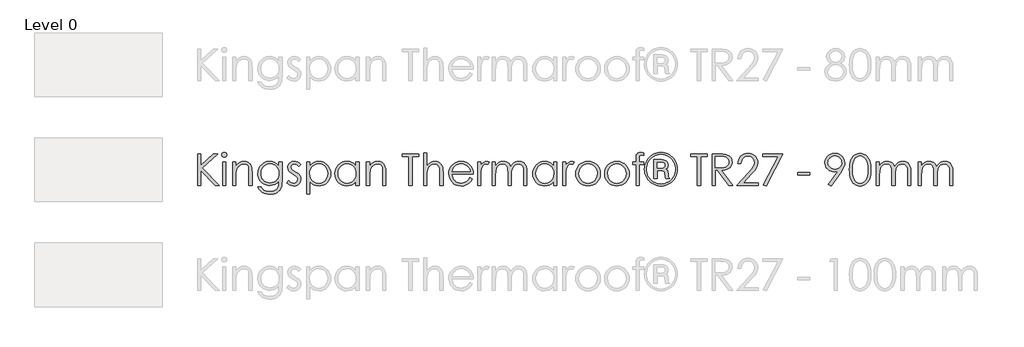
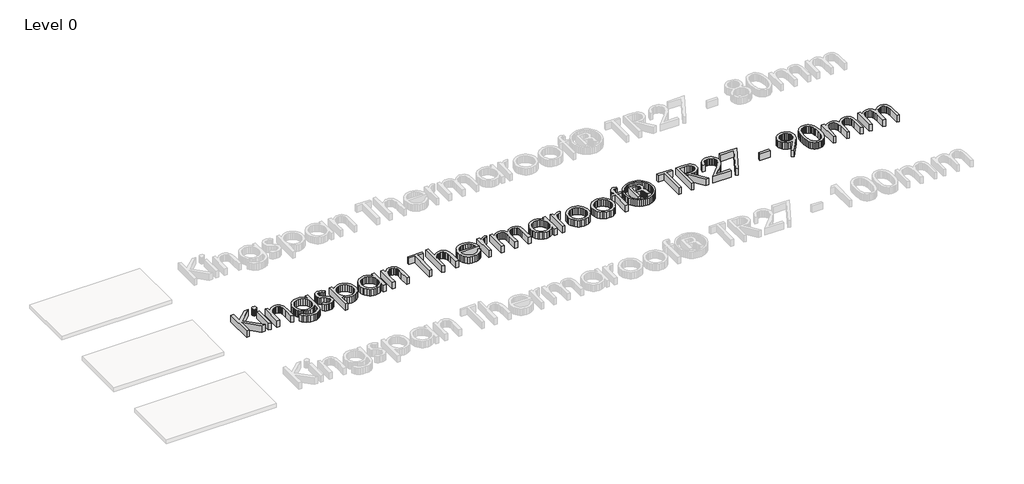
# One storey, part 8 of 12: 1 proxy.
"""IFC4 building model written with IfcOpenShell, lengths in millimetres."""

from ifc_helpers import new_model, si_unit, origin, origin_with_axes, place, context, project, spatial, polyline, outline, extrude, element, save

model = new_model("IFC4")

# Units and contexts
model_context = context("Model", 3, world=origin())
ifc_project = project(units=[si_unit("LENGTHUNIT", "METRE", prefix="MILLI")], contexts=[model_context])

# Site, building, storey
site = spatial("IfcSite", under=ifc_project)
building = spatial("IfcBuilding", under=site)
storey = spatial("IfcBuildingStorey", under=building, Name="Level 0", Elevation=0.0)

# Proxy
placement = place(None, origin())
element("IfcBuildingElementProxy", 1, Name="600mm KI_CenturyGothic", ObjectType="600mm KI_CenturyGothic", at=placement, inside=storey, context=model_context, shape_type="SweptSolid", body=[
    extrude(outline(polyline([(-3852.2663848, -2019.1036551), (-3792.944575, -2019.1036551), (-3792.944575, -2238.3162805), (-3555.1938841, -2019.1036551), (-3471.6181051, -2019.1036551), (-3760.9664119, -2286.0517993), (-3441.9572002, -2612.3217533), (-3520.8984627, -2612.3217533), (-3792.944575, -2334.0962859), (-3792.944575, -2612.3217533), (-3852.2663848, -2612.3217533), (-3852.2663848, -2019.1036551)])), origin_with_axes(), (0.0, 0.0, 1.0), 150.0),
    extrude(outline(polyline([(-3348.1854852, -1989.4427502), (-3329.145347, -1992.7255326), (-3313.1176445, -2002.57388), (-3302.226531, -2017.0181227), (-3298.5961598, -2034.0885914), (-3302.226531, -2050.9273343), (-3313.1176445, -2065.2943351), (-3329.145347, -2075.1426825), (-3348.1854852, -2078.4254649), (-3366.9938975, -2075.1426825), (-3382.9443581, -2065.2943351), (-3393.8354717, -2050.9273343), (-3397.4658428, -2034.0885914), (-3393.8354717, -2017.0181227), (-3382.9443581, -2002.57388), (-3366.9938975, -1992.7255326), (-3348.1854852, -1989.4427502)])), origin_with_axes(), (0.0, 0.0, 1.0), 150.0),
    extrude(outline(polyline([(-3377.6919062, -2167.4081797), (-3318.3700964, -2167.4081797), (-3318.3700964, -2612.3217533), (-3377.6919062, -2612.3217533), (-3377.6919062, -2167.4081797)])), origin_with_axes(), (0.0, 0.0, 1.0), 150.0),
    extrude(outline(polyline([(-3189.8395084, -2167.4081797), (-3130.5176986, -2167.4081797), (-3130.5176986, -2246.5039261), (-3096.9946967, -2206.9946738), (-3060.0730495, -2179.3034384), (-3019.7141359, -2162.9667681), (-2975.879335, -2157.5212114), (-2953.4357238, -2159.0998435), (-2932.2955704, -2163.8357399), (-2912.4588747, -2171.7289007), (-2893.9256368, -2182.7793257), (-2877.212412, -2196.5042529), (-2862.835756, -2212.4209201), (-2841.0921499, -2250.8294747), (-2833.6238199, -2275.208962), (-2828.2892984, -2305.5553891), (-2824.0216812, -2384.1490629), (-2824.0216812, -2612.3217533), (-2883.343491, -2612.3217533), (-2883.343491, -2399.1339993), (-2883.343491, -2296.0932515), (-2884.7290183, -2275.2958592), (-2889.8125035, -2257.2405557), (-2898.2849788, -2241.9273412), (-2910.1464442, -2229.3562154), (-2924.7403432, -2219.5561443), (-2941.4101193, -2212.5560935), (-2980.977303, -2206.9560529), (-3005.3471351, -2209.1139996), (-3028.4038541, -2215.5878397), (-3050.1474602, -2226.3775731), (-3070.5779533, -2241.4832), (-3088.6622225, -2259.7654016), (-3103.3671568, -2280.0848594), (-3114.6927562, -2302.4415734), (-3122.6390208, -2326.8355436), (-3128.5480292, -2373.9145059), (-3130.5176986, -2448.4143569), (-3130.5176986, -2612.3217533), (-3189.8395084, -2612.3217533), (-3189.8395084, -2167.4081797)])), origin_with_axes(), (0.0, 0.0, 1.0), 150.0),
    extrude(outline(polyline([(-2319.7862977, -2167.4081797), (-2260.4644879, -2167.4081797), (-2260.4644879, -2518.3955544), (-2264.5196897, -2598.64993), (-2269.588692, -2629.4501535), (-2276.6852953, -2654.0324009), (-2289.9371156, -2682.645712), (-2307.2924139, -2707.7734805), (-2328.7511904, -2729.4157066), (-2354.3134448, -2747.5723901), (-2383.3226209, -2761.9345632), (-2415.122162, -2772.1932584), (-2449.7120682, -2778.3484755), (-2487.0923395, -2780.4002145), (-2541.0458345, -2776.3836336), (-2589.206184, -2764.333891), (-2630.260275, -2745.5061682), (-2662.8949946, -2721.1556466), (-2690.2000204, -2687.8064391), (-2715.2650299, -2641.9826582), (-2655.94322, -2641.9826582), (-2642.4355358, -2663.1517774), (-2627.0933555, -2681.3953581), (-2609.9166791, -2696.7134003), (-2590.9055067, -2709.105904), (-2569.7894914, -2718.6694217), (-2546.2982864, -2725.5005057), (-2492.1903075, -2730.965373), (-2438.5071593, -2725.6356791), (-2415.083541, -2718.9735618), (-2393.93856, -2709.6465976), (-2359.6624492, -2685.6050438), (-2336.8567664, -2656.1179332), (-2329.3884364, -2637.4784876), (-2324.0539149, -2613.7700397), (-2319.7862977, -2551.146137), (-2319.7862977, -2528.4370066), (-2354.757586, -2564.2193353), (-2396.6420279, -2590.6167682), (-2443.392712, -2606.8955071), (-2492.9627269, -2612.3217533), (-2522.4063889, -2610.4244982), (-2550.9521133, -2604.7327327), (-2578.5999001, -2595.246457), (-2605.3497494, -2581.965671), (-2630.1540674, -2565.4745168), (-2651.9652601, -2546.3571367), (-2670.7833277, -2524.6135306), (-2686.6082702, -2500.2436986), (-2699.1456025, -2473.9283352), (-2708.1008399, -2446.348135), (-2713.4739824, -2417.5030981), (-2715.2650299, -2387.3932244), (-2713.3967404, -2357.1047287), (-2707.7918722, -2327.8783097), (-2698.4504251, -2299.7139674), (-2685.3723991, -2272.6117018), (-2668.9971079, -2247.4260017), (-2649.7638648, -2225.0113563), (-2627.67267, -2205.3677655), (-2602.7235235, -2188.4952292), (-2575.9833294, -2174.9440964), (-2548.5189922, -2165.2647158), (-2520.3305117, -2159.4570875), (-2491.4178881, -2157.5212114), (-2444.5320306, -2162.4646955), (-2400.8903346, -2177.295148), (-2359.6045177, -2203.8663753), (-2319.7862977, -2244.032184), (-2319.7862977, -2167.4081797)]), holes=[polyline([(-2484.1571458, -2206.9560529), (-2529.0154023, -2212.9809242), (-2570.5908765, -2231.0555381), (-2606.2187212, -2259.7702293), (-2633.2340897, -2297.7153322), (-2650.2659375, -2341.9942743), (-2655.94322, -2389.7104826), (-2653.0080263, -2425.623157), (-2644.2024452, -2458.2820147), (-2629.5264766, -2487.6870557), (-2608.9801206, -2513.83828), (-2583.7606272, -2535.2970564), (-2555.0652466, -2550.6247539), (-2522.8939786, -2559.8213723), (-2487.2468234, -2562.8869118), (-2451.3244937, -2559.8455104), (-2419.1001219, -2550.7213063), (-2390.573708, -2535.5142994), (-2365.7452519, -2514.2244897), (-2345.6382095, -2487.9815406), (-2331.2760363, -2457.9151155), (-2322.6587323, -2424.0252144), (-2319.7862977, -2386.3118373), (-2325.0773706, -2337.6107942), (-2340.9505892, -2294.3939288), (-2366.4983608, -2258.167459), (-2400.8130926, -2230.4376026), (-2440.9982119, -2212.8264403), (-2484.1571458, -2206.9560529)])]), origin_with_axes(), (0.0, 0.0, 1.0), 150.0),
    extrude(outline(polyline([(-1904.5336289, -2218.6968277), (-1940.9918246, -2256.3908944), (-1962.9575012, -2234.7631512), (-1984.6721416, -2219.3147633), (-2006.1357456, -2210.0457305), (-2027.3483133, -2206.9560529), (-2052.181597, -2211.6291902), (-2073.2300256, -2225.6486023), (-2087.5970264, -2245.8859906), (-2092.3860267, -2269.2130564), (-2088.4466878, -2290.7635576), (-2076.628671, -2311.2326717), (-2052.0657341, -2333.4011084), (-2010.2006027, -2359.1226744), (-1958.3326401, -2391.9891198), (-1939.8428507, -2407.8140623), (-1926.315856, -2423.2334845), (-1909.9791857, -2455.9068251), (-1904.5336289, -2492.4422626), (-1906.9474396, -2518.5886593), (-1914.1888714, -2542.6495236), (-1926.2579245, -2564.6248555), (-1943.1545989, -2584.514655), (-1963.6719892, -2601.0058091), (-1986.6031901, -2612.785205), (-2011.9482016, -2619.8528425), (-2039.7070237, -2622.2087216), (-2077.4397114, -2618.3273142), (-2113.3958344, -2606.6830917), (-2145.4512394, -2588.2029576), (-2171.4817731, -2563.8138151), (-2135.7959969, -2523.3390386), (-2114.0041146, -2544.9667818), (-2091.5749863, -2560.4151697), (-2068.5086121, -2569.6842025), (-2044.8049918, -2572.7738801), (-2013.637869, -2567.1352185), (-1987.4914724, -2550.2192337), (-1969.7644472, -2525.6562968), (-1963.8554388, -2497.076779), (-1967.7561567, -2473.2862616), (-1979.4583106, -2452.2764539), (-2005.0253927, -2430.5714688), (-2050.2119275, -2403.7685157), (-2099.762632, -2373.1034655), (-2117.441381, -2357.9447348), (-2130.3890611, -2342.9018671), (-2146.3781427, -2310.7692201), (-2151.7078365, -2274.3110244), (-2149.5305794, -2250.264643), (-2142.9988078, -2228.3327597), (-2132.1125219, -2208.5153745), (-2116.8717217, -2190.8124874), (-2098.309518, -2176.2475542), (-2077.4590218, -2165.8440304), (-2054.3202332, -2159.6019161), (-2028.8931521, -2157.5212114), (-1997.9481, -2161.3446874), (-1966.9064954, -2172.8151154), (-1935.7683384, -2191.9324956), (-1904.5336289, -2218.6968277)])), origin_with_axes(), (0.0, 0.0, 1.0), 150.0),
    extrude(outline(polyline([(-1795.7769776, -2167.4081797), (-1736.4551678, -2167.4081797), (-1736.4551678, -2248.5122165), (-1700.9238754, -2208.2691659), (-1660.4490989, -2179.9213739), (-1614.9922173, -2163.121252), (-1564.5146096, -2157.5212114), (-1520.0618732, -2161.7598628), (-1478.9305402, -2174.4758172), (-1441.1206107, -2195.6690744), (-1406.6320845, -2225.3396346), (-1377.9077381, -2260.9771346), (-1357.3903478, -2300.0712114), (-1345.0799137, -2342.621865), (-1340.9764356, -2388.6290955), (-1345.0412927, -2435.5294358), (-1357.235864, -2478.7511288), (-1377.5601494, -2518.2941744), (-1406.014149, -2554.1585726), (-1440.2130179, -2583.9305128), (-1477.7719111, -2605.1961844), (-1518.6908288, -2617.9555873), (-1562.9697708, -2622.2087216), (-1612.6170277, -2616.7438544), (-1658.0545988, -2600.3492527), (-1699.3211052, -2573.1021584), (-1736.4551678, -2535.0798135), (-1736.4551678, -2770.5132462), (-1795.7769776, -2770.5132462), (-1795.7769776, -2167.4081797)]), holes=[polyline([(-1568.5311905, -2206.9560529), (-1602.5852307, -2210.2533182), (-1633.8392507, -2220.1451141), (-1662.2932503, -2236.6314406), (-1687.9472295, -2259.7122978), (-1709.1694525, -2287.6980181), (-1724.3281832, -2318.8989342), (-1733.4234216, -2353.3150461), (-1736.4551678, -2390.9463537), (-1731.048232, -2439.8018806), (-1714.8274246, -2483.4821976), (-1688.5265441, -2520.3266029), (-1652.8793888, -2548.6743949), (-1611.4390881, -2566.7490088), (-1567.7587711, -2572.7738801), (-1525.0632888, -2566.7103878), (-1485.0326535, -2548.519911), (-1450.2544701, -2519.4190101), (-1423.3163435, -2480.6242458), (-1406.05277, -2435.9590941), (-1400.2982454, -2389.247031), (-1405.9948385, -2342.303242), (-1423.0846177, -2297.8698161), (-1449.8103289, -2259.519193), (-1484.414718, -2230.8238123), (-1524.7157001, -2212.9229927), (-1568.5311905, -2206.9560529)])]), origin_with_axes(), (0.0, 0.0, 1.0), 150.0),
    extrude(outline(polyline([(-807.0801472, -2167.4081797), (-807.0801472, -2612.3217533), (-866.401957, -2612.3217533), (-866.401957, -2536.4701684), (-903.4780882, -2574.3187189), (-944.8797679, -2601.0444301), (-990.4525125, -2616.9176488), (-1040.0418379, -2622.2087216), (-1084.3159523, -2617.9555873), (-1125.2203871, -2605.1961844), (-1162.7551422, -2583.9305128), (-1196.9202178, -2554.1585726), (-1225.340424, -2518.2941744), (-1245.6405713, -2478.7511288), (-1257.8206597, -2435.5294358), (-1261.8806892, -2388.6290955), (-1257.7820388, -2342.621865), (-1245.4860875, -2300.0712114), (-1224.9928353, -2260.9771346), (-1196.3022822, -2225.3396346), (-1161.8475494, -2195.6690744), (-1124.061758, -2174.4758172), (-1082.9449079, -2161.7598628), (-1038.4969991, -2157.5212114), (-987.7490446, -2163.121252), (-942.0990581, -2179.9213739), (-921.2051134, -2192.6083625), (-901.6242816, -2208.2691659), (-866.401957, -2248.5122165), (-866.401957, -2167.4081797), (-807.0801472, -2167.4081797)]), holes=[polyline([(-1034.3259343, -2206.9560529), (-1078.1414247, -2212.9229927), (-1118.4424068, -2230.8238123), (-1153.0467959, -2259.519193), (-1179.7725071, -2297.8698161), (-1196.8622863, -2342.303242), (-1202.5588794, -2389.247031), (-1196.8043548, -2435.9590941), (-1179.5407813, -2480.6242458), (-1152.6026548, -2519.4190101), (-1117.8244713, -2548.519911), (-1077.6779731, -2566.7103878), (-1034.6349021, -2572.7738801), (-991.0125165, -2566.7490088), (-949.7460102, -2548.6743949), (-914.2726493, -2520.3266029), (-888.0297002, -2483.4821976), (-871.8088928, -2439.8018806), (-866.401957, -2390.9463537), (-869.4337032, -2353.3150461), (-878.5289416, -2318.8989342), (-893.6876723, -2287.6980181), (-914.9098953, -2259.7122978), (-940.5638746, -2236.6314406), (-969.0178742, -2220.1451141), (-1000.2718941, -2210.2533182), (-1034.3259343, -2206.9560529)])]), origin_with_axes(), (0.0, 0.0, 1.0), 150.0),
    extrude(outline(polyline([(-668.662591, -2167.4081797), (-609.3407811, -2167.4081797), (-609.3407811, -2246.5039261), (-575.8177792, -2206.9946738), (-538.896132, -2179.3034384), (-498.5372184, -2162.9667681), (-454.7024175, -2157.5212114), (-432.2588064, -2159.0998435), (-411.1186529, -2163.8357399), (-391.2819572, -2171.7289007), (-372.7487193, -2182.7793257), (-356.0354946, -2196.5042529), (-341.6588385, -2212.4209201), (-319.9152324, -2250.8294747), (-312.4469024, -2275.208962), (-307.1123809, -2305.5553891), (-302.8447637, -2384.1490629), (-302.8447637, -2612.3217533), (-362.1665735, -2612.3217533), (-362.1665735, -2399.1339993), (-362.1665735, -2296.0932515), (-363.5521008, -2275.2958592), (-368.635586, -2257.2405557), (-377.1080613, -2241.9273412), (-388.9695267, -2229.3562154), (-403.5634257, -2219.5561443), (-420.2332018, -2212.5560935), (-459.8003855, -2206.9560529), (-484.1702176, -2209.1139996), (-507.2269366, -2215.5878397), (-528.9705427, -2226.3775731), (-549.4010358, -2241.4832), (-567.485305, -2259.7654016), (-582.1902393, -2280.0848594), (-593.5158387, -2302.4415734), (-601.4621033, -2326.8355436), (-607.3711117, -2373.9145059), (-609.3407811, -2448.4143569), (-609.3407811, -2612.3217533), (-668.662591, -2612.3217533), (-668.662591, -2167.4081797)])), origin_with_axes(), (0.0, 0.0, 1.0), 150.0),
    extrude(outline(polyline([(3.6512537, -2068.5384966), (3.6512537, -2019.1036551), (320.0342394, -2019.1036551), (320.0342394, -2068.5384966), (191.5036515, -2068.5384966), (191.5036515, -2612.3217533), (132.1818417, -2612.3217533), (132.1818417, -2068.5384966), (3.6512537, -2068.5384966)])), origin_with_axes(), (0.0, 0.0, 1.0), 150.0),
    extrude(outline(polyline([(409.0169542, -1999.3297185), (468.338764, -1999.3297185), (468.338764, -2248.0487649), (502.1128022, -2208.3464078), (539.1696229, -2180.0758578), (579.470605, -2163.159873), (622.9771276, -2157.5212114), (645.4207388, -2159.0998435), (666.5608922, -2163.8357399), (686.3975879, -2171.7289007), (704.9308258, -2182.7793257), (721.6440506, -2196.48977), (736.0207066, -2212.3629887), (757.7643127, -2250.5977489), (765.2326428, -2274.9048219), (770.5671642, -2305.2657318), (774.8347814, -2384.1490629), (774.8347814, -2612.3217533), (715.5129716, -2612.3217533), (715.5129716, -2399.1339993), (714.1226167, -2334.7528424), (709.9515519, -2296.0932515), (696.4342124, -2257.2405557), (686.7210385, -2241.9273412), (675.0381951, -2229.3562154), (661.3953375, -2219.5561443), (645.8021209, -2212.5560935), (608.7646107, -2206.9560529), (585.8961689, -2209.1139996), (564.2539428, -2215.5878397), (543.8379326, -2226.3775731), (524.6481382, -2241.4832), (507.659739, -2259.7654016), (493.8479146, -2280.0848594), (483.212665, -2302.4415734), (475.7539902, -2326.8355436), (470.1925705, -2373.6827801), (468.338764, -2448.4143569), (468.338764, -2612.3217533), (409.0169542, -2612.3217533), (409.0169542, -1999.3297185)])), origin_with_axes(), (0.0, 0.0, 1.0), 150.0),
    extrude(outline(polyline([(1280.6150037, -2464.0172288), (1328.5050064, -2489.1981012), (1302.8799929, -2531.0825431), (1273.5859872, -2564.0455409), (1240.5071264, -2589.1298609), (1203.5275477, -2607.3782692), (1162.048626, -2618.5011085), (1115.4717363, -2622.2087216), (1063.9803281, -2617.7769653), (1018.4172388, -2604.4816964), (978.7824684, -2582.3229149), (945.0760169, -2551.3006208), (918.1765113, -2514.6975966), (898.9625788, -2475.7966246), (887.4342193, -2434.5977049), (883.5914328, -2391.1008375), (886.8742152, -2350.2205409), (896.7225625, -2311.6188814), (913.1364748, -2275.2958592), (936.1159519, -2241.2514742), (972.3038007, -2204.6194842), (1014.1303111, -2178.4537771), (1061.5954832, -2162.7543528), (1114.6993169, -2157.5212114), (1169.3479893, -2162.8895262), (1218.2035163, -2178.9944706), (1261.2658978, -2205.8360447), (1298.5351338, -2243.4142485), (1320.008393, -2275.5855165), (1335.456781, -2311.5416395), (1344.8802977, -2351.2826175), (1348.278943, -2394.8084506), (942.9132426, -2394.8084506), (946.6498214, -2432.0632038), (956.1602353, -2465.8131039), (971.4444841, -2496.058151), (992.502568, -2522.798345), (1017.86689, -2544.6626416), (1046.0698533, -2560.2799963), (1077.1114579, -2569.6504092), (1110.9917037, -2572.7738801), (1144.5147056, -2569.7614445), (1177.1108043, -2560.7241375), (1206.8489511, -2546.6854149), (1231.7980977, -2528.6687324), (1255.2796474, -2502.5030253), (1280.6150037, -2464.0172288)]), holes=[polyline([(1288.9571332, -2345.3736091), (1274.5322009, -2302.8519212), (1254.7389538, -2269.8309919), (1228.6311782, -2244.3025308), (1195.2626601, -2224.2582474), (1157.3175572, -2211.2816015), (1117.4800267, -2206.9560529), (1085.0577224, -2209.669176), (1054.9912973, -2217.8085454), (1027.2807514, -2231.3741611), (1001.9260846, -2250.3660231), (985.3866543, -2268.1799455), (970.9906877, -2289.9525173), (958.738185, -2315.6837385), (948.6291461, -2345.3736091), (1288.9571332, -2345.3736091)])]), origin_with_axes(), (0.0, 0.0, 1.0), 150.0),
    extrude(outline(polyline([(1427.3746895, -2167.4081797), (1486.6964993, -2167.4081797), (1486.6964993, -2231.8279575), (1512.2442709, -2198.7877177), (1539.1437765, -2175.6730672), (1567.317774, -2162.0591753), (1596.6890217, -2157.5212114), (1620.0160875, -2161.3060664), (1644.8879922, -2172.6606316), (1615.3815711, -2214.6802469), (1586.8020534, -2206.9560529), (1560.3853099, -2212.9036822), (1534.8954698, -2230.7465704), (1512.8428959, -2261.1026527), (1496.7379515, -2304.5898649), (1489.2068623, -2362.7144246), (1486.6964993, -2460.1551318), (1486.6964993, -2612.3217533), (1427.3746895, -2612.3217533), (1427.3746895, -2167.4081797)])), origin_with_axes(), (0.0, 0.0, 1.0), 150.0),
    extrude(outline(polyline([(1704.209802, -2167.4081797), (1763.5316118, -2167.4081797), (1763.5316118, -2243.5687324), (1793.1152748, -2207.0719158), (1823.4713571, -2181.9296644), (1866.8813274, -2163.6233246), (1912.4540719, -2157.5212114), (1943.2929164, -2160.6688204), (1972.4710592, -2170.1116476), (1998.2312461, -2184.7876161), (2018.8162231, -2203.6346495), (2035.5970345, -2229.0665582), (2049.9447249, -2263.4971529), (2064.7220735, -2239.0983551), (2081.247021, -2217.8085454), (2099.5195674, -2199.6277238), (2119.5397127, -2184.5558903), (2140.83435, -2172.7282183), (2162.9303724, -2164.2798811), (2185.82778, -2159.2108788), (2209.5265726, -2157.5212114), (2251.8551557, -2163.3336673), (2271.0497777, -2170.5992373), (2288.9312868, -2180.7710353), (2305.0458865, -2193.5400934), (2318.9397805, -2208.5974441), (2340.065451, -2245.5770228), (2347.3648143, -2268.9523649), (2352.5786453, -2297.5222274), (2356.74971, -2370.2455138), (2356.74971, -2612.3217533), (2297.4279002, -2612.3217533), (2297.4279002, -2366.6923845), (2294.9754686, -2305.5746996), (2287.6181738, -2267.127524), (2274.3132497, -2242.6611396), (2254.01793, -2223.485828), (2227.9487753, -2211.0884967), (2197.3223461, -2206.9560529), (2177.6739277, -2208.5057193), (2158.894481, -2213.1547185), (2123.9425033, -2231.7507156), (2095.2085016, -2260.6971325), (2075.434565, -2297.947058), (2068.743482, -2322.1044747), (2063.9641369, -2353.1750451), (2060.1406609, -2436.0556465), (2060.1406609, -2612.3217533), (2000.8188511, -2612.3217533), (2000.8188511, -2381.9862886), (1998.4050405, -2313.5306194), (1991.1636086, -2271.2985888), (1977.9166159, -2245.0556397), (1957.4861228, -2224.5672152), (1931.1659318, -2211.3588434), (1900.2498454, -2206.9560529), (1863.3088876, -2213.0002347), (1828.801051, -2231.1327801), (1799.8353235, -2259.4998825), (1779.5206934, -2296.2477354), (1767.5288822, -2348.077077), (1763.5316118, -2421.6886457), (1763.5316118, -2612.3217533), (1704.209802, -2612.3217533), (1704.209802, -2167.4081797)])), origin_with_axes(), (0.0, 0.0, 1.0), 150.0),
    extrude(outline(polyline([(2920.3069034, -2167.4081797), (2920.3069034, -2612.3217533), (2860.9850935, -2612.3217533), (2860.9850935, -2536.4701684), (2823.9089624, -2574.3187189), (2782.5072826, -2601.0444301), (2736.9345381, -2616.9176488), (2687.3452127, -2622.2087216), (2643.0710983, -2617.9555873), (2602.1666635, -2605.1961844), (2564.6319083, -2583.9305128), (2530.4668328, -2554.1585726), (2502.0466266, -2518.2941744), (2481.7464792, -2478.7511288), (2469.5663908, -2435.5294358), (2465.5063614, -2388.6290955), (2469.6050118, -2342.621865), (2481.9009631, -2300.0712114), (2502.3942153, -2260.9771346), (2531.0847683, -2225.3396346), (2565.5395011, -2195.6690744), (2603.3252926, -2174.4758172), (2644.4421427, -2161.7598628), (2688.8900515, -2157.5212114), (2739.638006, -2163.121252), (2785.2879925, -2179.9213739), (2806.1819372, -2192.6083625), (2825.7627689, -2208.2691659), (2860.9850935, -2248.5122165), (2860.9850935, -2167.4081797), (2920.3069034, -2167.4081797)]), holes=[polyline([(2693.0611162, -2206.9560529), (2649.2456259, -2212.9229927), (2608.9446437, -2230.8238123), (2574.3402547, -2259.519193), (2547.6145435, -2297.8698161), (2530.5247643, -2342.303242), (2524.8281712, -2389.247031), (2530.5826957, -2435.9590941), (2547.8462693, -2480.6242458), (2574.7843958, -2519.4190101), (2609.5625792, -2548.519911), (2649.7090775, -2566.7103878), (2692.7521485, -2572.7738801), (2736.374534, -2566.7490088), (2777.6410404, -2548.6743949), (2813.1144013, -2520.3266029), (2839.3573504, -2483.4821976), (2855.5781577, -2439.8018806), (2860.9850935, -2390.9463537), (2857.9533474, -2353.3150461), (2848.858109, -2318.8989342), (2833.6993783, -2287.6980181), (2812.4771553, -2259.7122978), (2786.823176, -2236.6314406), (2758.3691764, -2220.1451141), (2727.1151565, -2210.2533182), (2693.0611162, -2206.9560529)])]), origin_with_axes(), (0.0, 0.0, 1.0), 150.0),
    extrude(outline(polyline([(3029.0635547, -2167.4081797), (3088.3853645, -2167.4081797), (3088.3853645, -2231.8279575), (3113.9331361, -2198.7877177), (3140.8326417, -2175.6730672), (3169.0066393, -2162.0591753), (3198.3778869, -2157.5212114), (3221.7049527, -2161.3060664), (3246.5768574, -2172.6606316), (3217.0704364, -2214.6802469), (3188.4909186, -2206.9560529), (3162.0741752, -2212.9036822), (3136.584335, -2230.7465704), (3114.5317612, -2261.1026527), (3098.4268167, -2304.5898649), (3090.8957276, -2362.7144246), (3088.3853645, -2460.1551318), (3088.3853645, -2612.3217533), (3029.0635547, -2612.3217533), (3029.0635547, -2167.4081797)])), origin_with_axes(), (0.0, 0.0, 1.0), 150.0),
    extrude(outline(polyline([(3508.7360013, -2157.5212114), (3558.0453247, -2162.1460725), (3602.932547, -2176.020656), (3643.3976682, -2199.1449617), (3679.4406884, -2231.5189898), (3706.340194, -2266.7509696), (3725.5541265, -2305.0919375), (3737.0824861, -2346.5418935), (3740.9252726, -2391.1008375), (3736.8604155, -2435.9156455), (3724.6658442, -2477.8242255), (3704.3415588, -2516.8265775), (3675.8875592, -2552.9227016), (3641.0514443, -2583.2353353), (3601.580813, -2604.8872166), (3557.4756654, -2617.8783454), (3508.7360013, -2622.2087216), (3459.8611639, -2617.8783454), (3415.6594638, -2604.8872166), (3376.130901, -2583.2353353), (3341.2754757, -2552.9227016), (3312.8214761, -2516.8265775), (3292.4971906, -2477.8242255), (3280.3026194, -2435.9156455), (3276.2377623, -2391.1008375), (3280.0805488, -2346.7349983), (3291.6089083, -2305.4009052), (3310.8228409, -2267.0985583), (3337.7223464, -2231.8279575), (3373.7846771, -2199.3187561), (3414.3077298, -2176.0978979), (3459.2915046, -2162.165383), (3508.7360013, -2157.5212114)]), holes=[polyline([(3508.5815174, -2206.9560529), (3474.3054066, -2210.3305601), (3442.5396588, -2220.4540819), (3413.2842741, -2237.3266181), (3386.5392524, -2260.9481688), (3364.2356423, -2289.3587199), (3348.3044922, -2320.5982569), (3338.7458021, -2354.66678), (3335.5595721, -2391.5642892), (3341.3720281, -2439.299808), (3358.809396, -2483.6366815), (3386.1530427, -2521.4273006), (3421.6843351, -2549.5240562), (3463.2211882, -2566.9614241), (3508.5815174, -2572.7738801), (3553.9418466, -2566.9614241), (3595.4786998, -2549.5240562), (3631.0099921, -2521.4273006), (3658.3536389, -2483.6366815), (3675.7910068, -2439.299808), (3681.6034628, -2391.5642892), (3678.4027499, -2354.66678), (3668.8006112, -2320.5982569), (3652.7970468, -2289.3587199), (3630.3920566, -2260.9481688), (3603.5746206, -2237.3266181), (3574.3337188, -2220.4540819), (3542.669351, -2210.3305601), (3508.5815174, -2206.9560529)])]), origin_with_axes(), (0.0, 0.0, 1.0), 150.0),
    extrude(outline(polyline([(4052.519258, -2157.5212114), (4101.8285814, -2162.1460725), (4146.7158037, -2176.020656), (4187.180925, -2199.1449617), (4223.2239452, -2231.5189898), (4250.1234507, -2266.7509696), (4269.3373833, -2305.0919375), (4280.8657428, -2346.5418935), (4284.7085293, -2391.1008375), (4280.6436722, -2435.9156455), (4268.4491009, -2477.8242255), (4248.1248155, -2516.8265775), (4219.6708159, -2552.9227016), (4184.834701, -2583.2353353), (4145.3640698, -2604.8872166), (4101.2589221, -2617.8783454), (4052.519258, -2622.2087216), (4003.6444206, -2617.8783454), (3959.4427205, -2604.8872166), (3919.9141578, -2583.2353353), (3885.0587324, -2552.9227016), (3856.6047328, -2516.8265775), (3836.2804474, -2477.8242255), (3824.0858761, -2435.9156455), (3820.021019, -2391.1008375), (3823.8638055, -2346.7349983), (3835.392165, -2305.4009052), (3854.6060976, -2267.0985583), (3881.5056031, -2231.8279575), (3917.5679338, -2199.3187561), (3958.0909865, -2176.0978979), (4003.0747613, -2162.165383), (4052.519258, -2157.5212114)]), holes=[polyline([(4052.3647741, -2206.9560529), (4018.0886633, -2210.3305601), (3986.3229156, -2220.4540819), (3957.0675308, -2237.3266181), (3930.3225091, -2260.9481688), (3908.018899, -2289.3587199), (3892.0877489, -2320.5982569), (3882.5290589, -2354.66678), (3879.3428288, -2391.5642892), (3885.1552848, -2439.299808), (3902.5926527, -2483.6366815), (3929.9362994, -2521.4273006), (3965.4675918, -2549.5240562), (4007.004445, -2566.9614241), (4052.3647741, -2572.7738801), (4097.7251033, -2566.9614241), (4139.2619565, -2549.5240562), (4174.7932489, -2521.4273006), (4202.1368956, -2483.6366815), (4219.5742635, -2439.299808), (4225.3867195, -2391.5642892), (4222.1860066, -2354.66678), (4212.5838679, -2320.5982569), (4196.5803035, -2289.3587199), (4174.1753133, -2260.9481688), (4147.3578773, -2237.3266181), (4118.1169755, -2220.4540819), (4086.4526077, -2210.3305601), (4052.3647741, -2206.9560529)])]), origin_with_axes(), (0.0, 0.0, 1.0), 150.0),
    extrude(outline(polyline([(4561.5436418, -2000.7200734), (4561.5436418, -2052.3176892), (4535.2813822, -2042.2376161), (4513.0357036, -2038.8775917), (4499.3059487, -2040.5576039), (4488.086557, -2045.5976405), (4479.9761533, -2052.8197619), (4475.5733627, -2061.0460285), (4473.0243787, -2107.6229182), (4473.0243787, -2167.4081797), (4561.5436418, -2167.4081797), (4561.5436418, -2216.8430212), (4472.8698948, -2216.8430212), (4472.8698948, -2612.3217533), (4413.2391172, -2612.3217533), (4413.2391172, -2216.8430212), (4353.9173074, -2216.8430212), (4353.9173074, -2167.4081797), (4413.2391172, -2167.4081797), (4413.2391172, -2099.8987242), (4415.3246496, -2060.0611937), (4421.5812467, -2033.5478979), (4432.8392595, -2015.6277678), (4449.9290387, -2001.5697347), (4472.000923, -1992.4744963), (4498.2052511, -1989.4427502), (4527.2482205, -1992.262081), (4561.5436418, -2000.7200734)])), origin_with_axes(), (0.0, 0.0, 1.0), 150.0),
    extrude(outline(polyline([(5194.3096132, -2305.2078004), (5191.7075254, -2347.1501737), (5183.9012619, -2387.5477083), (5170.8908226, -2426.4004041), (5152.6762077, -2463.708261), (5129.9284564, -2498.3464434), (5103.3186081, -2529.1901155), (5072.8466628, -2556.2392774), (5038.5126205, -2579.4939289), (5001.5958009, -2598.1816507), (4963.3755235, -2611.5300234), (4923.8517884, -2619.5390471), (4883.0245956, -2622.2087216), (4842.2649894, -2619.55353), (4802.7895305, -2611.5879549), (4764.5982189, -2598.3119965), (4727.6910545, -2579.7256547), (4693.3425293, -2556.5579004), (4662.8271355, -2529.5377043), (4636.1448729, -2498.6650664), (4613.2957415, -2463.9399868), (4594.9797465, -2426.6369575), (4581.896893, -2388.0304704), (4574.0471808, -2348.1205256), (4571.4306101, -2306.9071231), (4574.0471808, -2265.2399241), (4581.896893, -2224.8954934), (4594.9797465, -2185.8738309), (4613.2957415, -2148.1749366), (4636.13039, -2113.1215788), (4662.769204, -2082.0365256), (4693.2121836, -2054.9197771), (4727.4593286, -2031.7713332), (4764.2940787, -2013.2525782), (4802.4998732, -2000.024896), (4842.0767122, -1992.0882866), (4883.0245956, -1989.4427502), (4923.9531684, -1992.0738038), (4963.4720759, -1999.9669645), (5001.581318, -2013.1222324), (5038.2808947, -2031.5396074), (5072.4025216, -2054.5866712), (5102.7779145, -2081.6310054), (5129.4070733, -2112.67261), (5152.289998, -2147.711485), (5170.6735796, -2185.3331373), (5183.8047094, -2224.123074), (5191.6833873, -2264.081295), (5194.3096132, -2305.2078004)]), holes=[polyline([(5154.76174, -2305.8257359), (5152.4782752, -2269.6813357), (5145.6278806, -2234.6279778), (5134.2105564, -2200.6656624), (5118.2263025, -2167.7943894), (5098.3220201, -2137.1920983), (5075.1446105, -2110.0367288), (5048.6940737, -2086.3282809), (5018.9704097, -2066.0667545), (4987.0115571, -2049.8459472), (4953.8554544, -2038.2596562), (4919.5021017, -2031.3078816), (4883.9514988, -2028.9906234), (4848.1353768, -2031.3078816), (4813.4489182, -2038.2596562), (4779.892123, -2049.8459472), (4747.4649911, -2066.0667545), (4717.3116688, -2086.3282809), (4690.5763024, -2110.0367288), (4667.2588918, -2137.1920983), (4647.359437, -2167.7943894), (4631.4427698, -2200.7139386), (4620.0737217, -2234.8210827), (4613.2522929, -2270.1158216), (4610.9784833, -2306.5981553), (4613.2522929, -2342.9066947), (4620.0737217, -2377.9890182), (4631.4427698, -2411.845126), (4647.359437, -2444.475018), (4667.268547, -2474.8069623), (4690.6149233, -2501.7692269), (4717.398566, -2525.3618119), (4747.619475, -2545.5847173), (4780.0948831, -2561.8055247), (4813.6420231, -2573.3918156), (4848.260895, -2580.3435902), (4883.9514988, -2582.6608484), (4919.3234797, -2580.3291074), (4953.6044181, -2573.3338842), (4986.7943142, -2561.6751789), (5018.8931678, -2545.3529915), (5048.7761433, -2525.0431889), (5075.3184049, -2501.4216382), (5098.5199526, -2474.4883392), (5118.3807864, -2444.2432922), (5134.2974536, -2411.666504), (5145.6665016, -2377.7379819), (5152.4879304, -2342.4577259), (5154.76174, -2305.8257359)])]), origin_with_axes(), (0.0, 0.0, 1.0), 150.0),
    extrude(outline(polyline([(4749.3960396, -2127.8603064), (4893.5294994, -2127.8603064), (4936.9587801, -2130.4672219), (4966.2141648, -2138.2879683), (4986.3356901, -2152.0177231), (5002.3633927, -2172.3516638), (5012.848986, -2197.9573669), (5016.3441838, -2227.5024089), (5014.722103, -2252.7991442), (5009.8558608, -2274.3110244), (4997.0336988, -2289.5663076), (4974.6335362, -2306.2891876), (4995.2957552, -2318.9761762), (5007.8475704, -2333.5555923), (5014.2200304, -2354.6619524), (5016.3441838, -2386.9297728), (5016.3441838, -2427.0955815), (5021.4035308, -2453.0488733), (5036.581572, -2474.3676487), (5046.0050887, -2483.7911654), (4976.7963106, -2483.7911654), (4967.7590036, -2459.6530592), (4961.9658581, -2431.4211301), (4957.022374, -2387.8566761), (4954.4540795, -2367.3296305), (4949.8388735, -2353.9474645), (4942.9836514, -2345.5087825), (4933.6953081, -2339.8121895), (4918.0151943, -2336.568028), (4891.9846606, -2335.4866408), (4808.7178494, -2335.4866408), (4808.7178494, -2483.7911654), (4749.3960396, -2483.7911654), (4749.3960396, -2127.8603064)]), holes=[polyline([(4808.7178494, -2177.295148), (4808.7178494, -2286.0517993), (4888.5860152, -2286.0517993), (4919.1738234, -2283.7345411), (4938.0208567, -2276.7827665), (4946.3340205, -2268.8944334), (4952.2719947, -2258.6695316), (4957.022374, -2231.210022), (4953.6044181, -2206.9946738), (4943.3505506, -2190.2717939), (4923.6345454, -2180.5393094), (4891.8301767, -2177.295148), (4808.7178494, -2177.295148)])]), origin_with_axes(), (0.0, 0.0, 1.0), 150.0),
    extrude(outline(polyline([(5441.4838208, -2068.5384966), (5441.4838208, -2019.1036551), (5757.8668066, -2019.1036551), (5757.8668066, -2068.5384966), (5629.3362186, -2068.5384966), (5629.3362186, -2612.3217533), (5570.0144088, -2612.3217533), (5570.0144088, -2068.5384966), (5441.4838208, -2068.5384966)])), origin_with_axes(), (0.0, 0.0, 1.0), 150.0),
    extrude(outline(polyline([(5846.8495213, -2019.1036551), (5966.5745281, -2019.1036551), (6050.4206538, -2021.0347036), (6102.0568906, -2026.8278491), (6127.5370756, -2034.3637658), (6150.5262079, -2045.2307413), (6171.0242877, -2059.4287753), (6189.0313149, -2076.9578681), (6203.6976283, -2097.2580154), (6214.1735664, -2119.7692132), (6220.4591292, -2144.4914616), (6222.5543169, -2171.4247605), (6216.7804818, -2215.2788719), (6209.5631881, -2235.1059123), (6199.4589768, -2253.5329426), (6186.6754358, -2270.173753), (6171.4201527, -2284.6421339), (6133.4943602, -2307.0616069), (6110.0176381, -2314.9982163), (6082.4567484, -2320.7334303), (6015.0824664, -2325.5996725), (6232.4412852, -2612.3217533), (6160.4517972, -2612.3217533), (5943.0929784, -2325.5996725), (5906.1713311, -2325.5996725), (5906.1713311, -2612.3217533), (5846.8495213, -2612.3217533), (5846.8495213, -2019.1036551)]), holes=[polyline([(5906.1713311, -2068.5384966), (5906.1713311, -2276.164831), (6011.0658855, -2276.7827665), (6064.1310982, -2273.8861938), (6101.2844713, -2265.1964755), (6127.276384, -2250.1149868), (6146.8572158, -2228.0431025), (6159.1386842, -2200.989113), (6163.232507, -2170.9613089), (6159.0807528, -2141.7445451), (6146.62549, -2115.2698702), (6127.4308679, -2093.7386795), (6103.0610359, -2079.3523682), (6067.2014653, -2071.2419645), (6013.5376276, -2068.5384966), (5906.1713311, -2068.5384966)])]), origin_with_axes(), (0.0, 0.0, 1.0), 150.0),
    extrude(outline(polyline([(6390.632778, -2197.0690846), (6331.3109682, -2197.0690846), (6335.7958283, -2157.8108686), (6346.9331505, -2122.2216448), (6364.7229348, -2090.3014132), (6389.1651812, -2062.0501737), (6418.5605669, -2038.9355232), (6451.2097694, -2022.4250585), (6487.1127885, -2012.5187797), (6526.2696244, -2009.2166868), (6564.7409381, -2012.5139521), (6599.35981, -2022.405748), (6630.1262402, -2038.8920746), (6657.0402286, -2061.9729317), (6678.9045253, -2089.5338214), (6694.52188, -2119.4602455), (6703.8922928, -2151.752204), (6707.0157637, -2186.4096969), (6700.932961, -2235.2072924), (6682.6845527, -2280.8765893), (6646.902224, -2332.7638624), (6588.2176602, -2400.2153864), (6435.4331031, -2562.8869118), (6716.902732, -2562.8869118), (6716.902732, -2612.3217533), (6311.5370316, -2612.3217533), (6537.5469477, -2371.6358687), (6594.2811525, -2306.1153932), (6626.993114, -2260.0212656), (6642.5187439, -2222.6554772), (6647.6939539, -2183.3200193), (6645.4442824, -2158.7136338), (6638.6952679, -2135.8741577), (6627.4469104, -2114.801591), (6611.6992099, -2095.4959336), (6592.6880375, -2079.3765063), (6571.6492641, -2067.8626296), (6548.5828898, -2060.9543036), (6523.4889146, -2058.6515283), (6497.1542407, -2060.9253379), (6473.1464803, -2067.7467667), (6451.4656333, -2079.1158148), (6432.1116997, -2095.032482), (6415.8764095, -2115.0526273), (6403.5514925, -2138.7321095), (6395.1369486, -2166.0709286), (6390.632778, -2197.0690846)])), origin_with_axes(), (0.0, 0.0, 1.0), 150.0),
    extrude(outline(polyline([(6805.8854468, -2019.1036551), (7181.5902423, -2019.1036551), (6865.2072566, -2622.2087216), (6811.2923826, -2599.8085591), (7089.9813016, -2068.5384966), (6805.8854468, -2068.5384966), (6805.8854468, -2019.1036551)])), origin_with_axes(), (0.0, 0.0, 1.0), 150.0),
    extrude(outline(polyline([(7458.4253548, -2365.1475457), (7685.8256258, -2365.1475457), (7685.8256258, -2414.5823873), (7458.4253548, -2414.5823873), (7458.4253548, -2365.1475457)])), origin_with_axes(), (0.0, 0.0, 1.0), 150.0),
    extrude(outline(polyline([(8091.1913263, -2622.2087216), (8040.211646, -2594.5561072), (8213.542559, -2349.39019), (8151.2855555, -2355.2605774), (8115.387364, -2352.1902103), (8082.3085032, -2342.979109), (8052.0489733, -2327.6272734), (8024.6087741, -2306.1347037), (8001.8320571, -2280.1524461), (7985.5629735, -2251.3315473), (7975.8015234, -2219.6720072), (7972.5477066, -2185.1738258), (7974.0780626, -2161.1370997), (7978.6691304, -2138.3072788), (7986.32091, -2116.6843633), (7997.0334016, -2096.268353), (8010.5555687, -2077.4502854), (8026.636375, -2060.6211978), (8066.4739055, -2032.9299623), (8113.0507953, -2015.1450057), (8162.8718465, -2009.2166868), (8211.5922001, -2015.0484533), (8256.4118357, -2032.5437526), (8276.6975001, -2045.3755699), (8294.6852169, -2060.5439558), (8310.3749859, -2078.0489105), (8323.7668072, -2097.8904338), (8342.1310785, -2141.261783), (8348.2525022, -2187.3366001), (8344.4290262, -2224.1810055), (8332.9585981, -2262.7247335), (8311.6398227, -2306.1347037), (8278.2713047, -2357.5778356), (8091.1913263, -2622.2087216)]), holes=[polyline([(8163.7987498, -2305.8257359), (8190.0513541, -2303.5615815), (8213.8129058, -2296.7691185), (8235.083405, -2285.4483466), (8253.8628517, -2269.5992661), (8269.205032, -2250.5543003), (8280.1637322, -2229.6458727), (8286.7389523, -2206.8739833), (8288.9306924, -2182.2386321), (8286.5796408, -2157.6032809), (8279.5264862, -2134.8313915), (8267.7712285, -2113.9229639), (8251.3138676, -2094.8779981), (8231.5157929, -2079.0289176), (8209.7383935, -2067.7081458), (8185.9816694, -2060.9156827), (8160.2456205, -2058.6515283), (8134.6447451, -2060.9156827), (8110.9845734, -2067.7081458), (8089.2651054, -2079.0289176), (8069.4863412, -2094.8779981), (8053.0289804, -2113.9229639), (8041.2737226, -2134.8313915), (8034.220568, -2157.6032809), (8031.8695165, -2182.2386321), (8034.2833271, -2206.8739833), (8041.5247589, -2229.6458727), (8053.5938121, -2250.5543003), (8070.4904864, -2269.5992661), (8090.8051166, -2285.4483466), (8113.1280372, -2296.7691185), (8137.4592483, -2303.5615815), (8163.7987498, -2305.8257359)])]), origin_with_axes(), (0.0, 0.0, 1.0), 150.0),
    extrude(outline(polyline([(8437.2352169, -2315.8671881), (8438.8138491, -2261.4357586), (8443.5497455, -2213.5409282), (8451.4429062, -2172.1826971), (8462.4933313, -2137.361065), (8476.4210185, -2107.7194706), (8492.9459661, -2081.9013522), (8512.0681738, -2059.9067098), (8533.7876418, -2041.7355435), (8557.4816068, -2027.5085437), (8582.5273058, -2017.346401), (8608.9247388, -2011.2491153), (8636.6739057, -2009.2166868), (8664.876869, -2011.2635982), (8691.7087878, -2017.4043324), (8717.1696623, -2027.6388895), (8741.2594923, -2041.9672693), (8763.4424119, -2060.3846443), (8783.1825551, -2082.886187), (8800.479922, -2109.4718971), (8815.3345126, -2140.1417749), (8827.2635647, -2175.6585844), (8835.7843162, -2216.7850897), (8840.8967671, -2263.521291), (8842.6009174, -2315.8671881), (8840.9209052, -2368.0537737), (8835.8808686, -2414.6210082), (8827.4808077, -2455.5688916), (8815.7207223, -2490.8974239), (8801.0109604, -2521.422473), (8783.7618697, -2547.9599069), (8763.9734502, -2570.5097258), (8741.645702, -2589.0719294), (8717.3869052, -2603.569276), (8691.8053403, -2613.9245236), (8664.9010071, -2620.1376721), (8636.6739057, -2622.2087216), (8608.9488769, -2620.2004312), (8582.6238583, -2614.1755599), (8557.6988498, -2604.1341077), (8534.1738515, -2590.0760746), (8512.5992121, -2572.0400817), (8493.5252806, -2550.0647498), (8476.9520569, -2524.150079), (8462.879541, -2494.2960692), (8451.6601492, -2459.2765047), (8443.6462979, -2417.8651697), (8438.8379872, -2370.0620642), (8437.2352169, -2315.8671881)]), holes=[polyline([(8496.5570267, -2315.7127042), (8500.9405068, -2404.0388625), (8506.4198569, -2439.019806), (8514.0909471, -2467.8793258), (8523.9055011, -2492.118812), (8535.8152427, -2513.239655), (8549.8201719, -2531.2418546), (8565.9202888, -2546.1254109), (8601.2198553, -2566.1117628), (8619.6227475, -2571.1083508), (8638.5277122, -2572.7738801), (8657.5195742, -2571.1421441), (8675.8741902, -2566.2469362), (8710.6716841, -2546.6661044), (8726.4290398, -2531.9901359), (8740.1781051, -2514.0700058), (8751.91888, -2492.9057143), (8761.6513644, -2468.4972613), (8771.113502, -2435.1383985), (8777.8721718, -2398.5546847), (8783.2791076, -2315.7127042), (8778.4514863, -2234.1065947), (8772.4169598, -2199.4153085), (8763.9686226, -2168.7985346), (8753.3864768, -2142.1355825), (8740.9505245, -2119.3057616), (8726.6607656, -2100.309072), (8710.5172002, -2085.1455137), (8675.4493595, -2065.2750247), (8657.2202617, -2060.3074024), (8638.5277122, -2058.6515283), (8619.5117122, -2060.3074024), (8601.0846819, -2065.2750247), (8565.9975307, -2085.1455137), (8550.0518977, -2099.9566557), (8536.1242104, -2117.8960962), (8524.2144688, -2138.9638353), (8514.3226729, -2163.159873), (8506.5502027, -2192.0145651), (8500.9984383, -2227.0582677), (8496.5570267, -2315.7127042)])]), origin_with_axes(), (0.0, 0.0, 1.0), 150.0),
    extrude(outline(polyline([(8941.4706004, -2167.4081797), (9000.7924102, -2167.4081797), (9000.7924102, -2243.5687324), (9030.3760732, -2207.0719158), (9060.7321556, -2181.9296644), (9104.1421258, -2163.6233246), (9149.7148703, -2157.5212114), (9180.5537148, -2160.6688204), (9209.7318576, -2170.1116476), (9235.4920446, -2184.7876161), (9256.0770215, -2203.6346495), (9272.857833, -2229.0665582), (9287.2055233, -2263.4971529), (9301.9828719, -2239.0983551), (9318.5078194, -2217.8085454), (9336.7803658, -2199.6277238), (9356.8005111, -2184.5558903), (9378.0951484, -2172.7282183), (9400.1911708, -2164.2798811), (9423.0885784, -2159.2108788), (9446.7873711, -2157.5212114), (9489.1159541, -2163.3336673), (9508.3105762, -2170.5992373), (9526.1920853, -2180.7710353), (9542.306685, -2193.5400934), (9556.2005789, -2208.5974441), (9577.3262495, -2245.5770228), (9584.6256128, -2268.9523649), (9589.8394437, -2297.5222274), (9594.0105085, -2370.2455138), (9594.0105085, -2612.3217533), (9534.6886987, -2612.3217533), (9534.6886987, -2366.6923845), (9532.2362671, -2305.5746996), (9524.8789723, -2267.127524), (9511.5740481, -2242.6611396), (9491.2787284, -2223.485828), (9465.2095737, -2211.0884967), (9434.5831446, -2206.9560529), (9414.9347261, -2208.5057193), (9396.1552795, -2213.1547185), (9361.2033017, -2231.7507156), (9332.4693001, -2260.6971325), (9312.6953635, -2297.947058), (9306.0042804, -2322.1044747), (9301.2249354, -2353.1750451), (9297.4014594, -2436.0556465), (9297.4014594, -2612.3217533), (9238.0796495, -2612.3217533), (9238.0796495, -2381.9862886), (9235.6658389, -2313.5306194), (9228.4244071, -2271.2985888), (9215.1774144, -2245.0556397), (9194.7469213, -2224.5672152), (9168.4267303, -2211.3588434), (9137.5106438, -2206.9560529), (9100.5696861, -2213.0002347), (9066.0618494, -2231.1327801), (9037.096122, -2259.4998825), (9016.7814918, -2296.2477354), (9004.7896806, -2348.077077), (9000.7924102, -2421.6886457), (9000.7924102, -2612.3217533), (8941.4706004, -2612.3217533), (8941.4706004, -2167.4081797)])), origin_with_axes(), (0.0, 0.0, 1.0), 150.0),
    extrude(outline(polyline([(9732.4280647, -2167.4081797), (9791.7498746, -2167.4081797), (9791.7498746, -2243.5687324), (9821.3335375, -2207.0719158), (9851.6896199, -2181.9296644), (9895.0995901, -2163.6233246), (9940.6723346, -2157.5212114), (9971.5111791, -2160.6688204), (10000.6893219, -2170.1116476), (10026.4495089, -2184.7876161), (10047.0344858, -2203.6346495), (10063.8152973, -2229.0665582), (10078.1629876, -2263.4971529), (10092.9403362, -2239.0983551), (10109.4652837, -2217.8085454), (10127.7378301, -2199.6277238), (10147.7579754, -2184.5558903), (10169.0526127, -2172.7282183), (10191.1486352, -2164.2798811), (10214.0460427, -2159.2108788), (10237.7448354, -2157.5212114), (10280.0734184, -2163.3336673), (10299.2680405, -2170.5992373), (10317.1495496, -2180.7710353), (10333.2641493, -2193.5400934), (10347.1580432, -2208.5974441), (10368.2837138, -2245.5770228), (10375.5830771, -2268.9523649), (10380.796908, -2297.5222274), (10384.9679728, -2370.2455138), (10384.9679728, -2612.3217533), (10325.646163, -2612.3217533), (10325.646163, -2366.6923845), (10323.1937314, -2305.5746996), (10315.8364366, -2267.127524), (10302.5315125, -2242.6611396), (10282.2361928, -2223.485828), (10256.167038, -2211.0884967), (10225.5406089, -2206.9560529), (10205.8921904, -2208.5057193), (10187.1127438, -2213.1547185), (10152.160766, -2231.7507156), (10123.4267644, -2260.6971325), (10103.6528278, -2297.947058), (10096.9617447, -2322.1044747), (10092.1823997, -2353.1750451), (10088.3589237, -2436.0556465), (10088.3589237, -2612.3217533), (10029.0371139, -2612.3217533), (10029.0371139, -2381.9862886), (10026.6233032, -2313.5306194), (10019.3818714, -2271.2985888), (10006.1348787, -2245.0556397), (9985.7043856, -2224.5672152), (9959.3841946, -2211.3588434), (9928.4681081, -2206.9560529), (9891.5271504, -2213.0002347), (9857.0193138, -2231.1327801), (9828.0535863, -2259.4998825), (9807.7389561, -2296.2477354), (9795.7471449, -2348.077077), (9791.7498746, -2421.6886457), (9791.7498746, -2612.3217533), (9732.4280647, -2612.3217533), (9732.4280647, -2167.4081797)])), origin_with_axes(), (0.0, 0.0, 1.0), 150.0),
])

save(model, "model.ifc")
